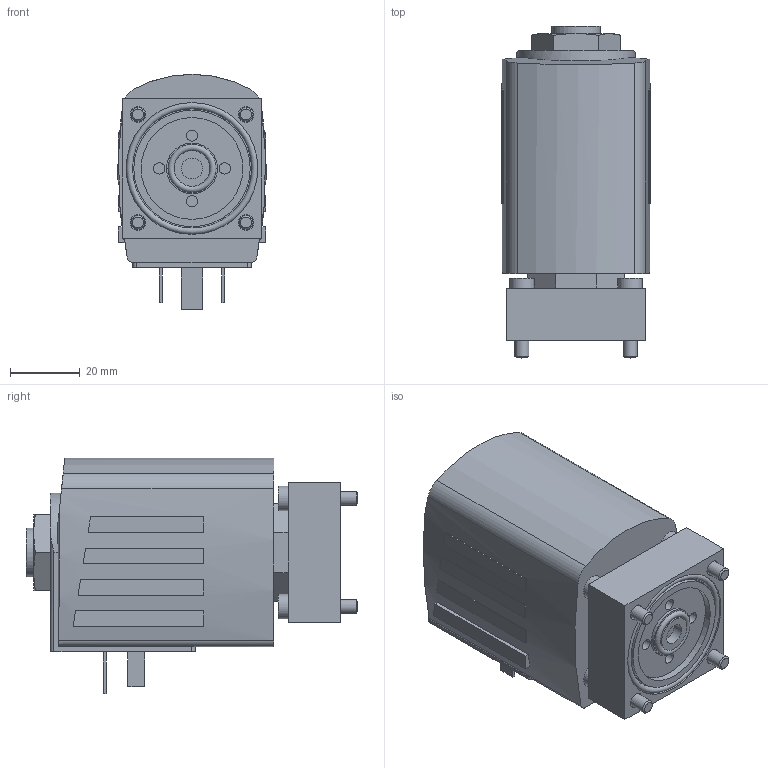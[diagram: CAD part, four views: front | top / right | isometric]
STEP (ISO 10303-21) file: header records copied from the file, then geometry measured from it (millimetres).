
FILE_DESCRIPTION(/* description */ ('STEP AP214'),/* implementation_level */ '2;1');
FILE_NAME(/* name */ '6027-A-4-FKM___FKM-VA-FK09-42-024___DC',/* time_stamp */ '2024-03-14T15:25:43+01:00',/* author */ ('License CC BY-ND 4.0'),/* organization */ ('CADENAS'),/* preprocessor_version */ 'ST-DEVELOPER v19.3',/* originating_system */ 'PARTsolutions',/* authorisation */ ' ');
FILE_SCHEMA (('AUTOMOTIVE_DESIGN {1 0 10303 214 3 1 1}'));
Length unit declared in the file: millimetre
Products named in the file (3): 6027-A-4-FKM / FKM-VA-FK09-42-024 / DC; AC10ex-42SG=k-Plan-Coil; V027-Gehaeuse FK09 3 4 VA 40x40 21 5
Assembly tree (2 placements, depth 2):
  6027-A-4-FKM / FKM-VA-FK09-42-024 / DC
    AC10ex-42SG=k-Plan-Coil
    V027-Gehaeuse FK09 3 4 VA 40x40 21 5
Bounding box: 42.72 x 95.2 x 67.5 mm (x, y, z)
Volume: 164230.8 mm3; surface area: 25491.3 mm2
Topology: 2 solids, 2 shells, 160 faces, 354 edges, 235 vertices
Faces by surface type: plane 111, cylinder 36, cone 11, torus 2
Full cylindrical faces by diameter (mm): 2.013 x1, 3.2 x4, 4 x4, 4.5 x4, 6 x1, 7 x4, 10.2 x1, 14 x1, 14.6 x1, 29.2 x1, 33.4 x1, 37.8 x1
Entity records: 4925 total; most frequent: CARTESIAN_POINT 751, DIRECTION 726, ORIENTED_EDGE 626, EDGE_CURVE 313, AXIS2_PLACEMENT_3D 266, EDGE_LOOP 228, FACE_BOUND 228, VERTEX_POINT 225
